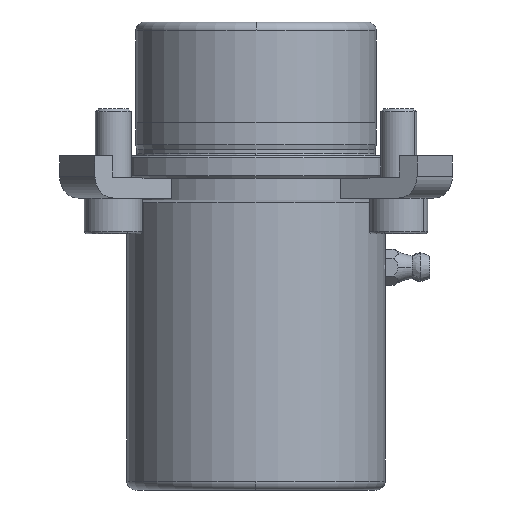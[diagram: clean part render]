
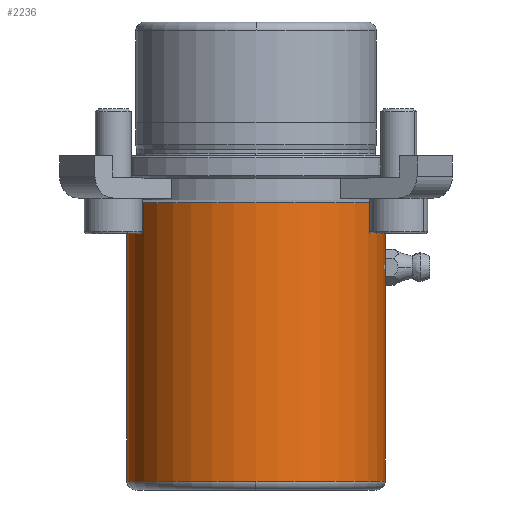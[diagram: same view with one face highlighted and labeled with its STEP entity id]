
A CAD part, front view. The second image highlights one B-rep face of the part: STEP entity #2236.
In plain terms, the highlighted cylindrical face has radius 29 mm (diameter 58 mm), a partial arc.
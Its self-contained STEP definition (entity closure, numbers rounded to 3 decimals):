
#604=CARTESIAN_POINT('',(0.,-29.,-73.0));
#605=VERTEX_POINT('',#604);
#613=CARTESIAN_POINT('',(-29.0,0.,-73.0));
#614=VERTEX_POINT('',#613);
#615=CARTESIAN_POINT('',(0.0,0.,-73.0));
#616=DIRECTION('',(0.0,0.0,-1.0));
#617=DIRECTION('',(1.0,0.0,0.0));
#618=AXIS2_PLACEMENT_3D('',#615,#616,#617);
#619=CIRCLE('',#618,29.0);
#620=EDGE_CURVE('',#605,#614,#619,.T.);
#637=CARTESIAN_POINT('',(29.0,0.,-73.0));
#638=VERTEX_POINT('',#637);
#639=CARTESIAN_POINT('',(29.0,0.,-27.5));
#640=VERTEX_POINT('',#639);
#641=CARTESIAN_POINT('',(29.0,0.,-73.0));
#642=DIRECTION('',(0.0,0.0,1.0));
#643=VECTOR('',#642,45.5);
#644=LINE('',#641,#643);
#645=EDGE_CURVE('',#638,#640,#644,.T.);
#655=CARTESIAN_POINT('',(-29.0,0.,-10.5));
#656=VERTEX_POINT('',#655);
#657=CARTESIAN_POINT('',(-29.0,0.,-73.0));
#658=DIRECTION('',(0.0,0.0,1.0));
#659=VECTOR('',#658,62.5);
#660=LINE('',#657,#659);
#661=EDGE_CURVE('',#614,#656,#660,.T.);
#663=CARTESIAN_POINT('',(29.0,0.,-10.5));
#664=VERTEX_POINT('',#663);
#672=CARTESIAN_POINT('',(29.0,0.,-22.5));
#673=VERTEX_POINT('',#672);
#674=CARTESIAN_POINT('',(29.0,0.,-22.5));
#675=DIRECTION('',(0.0,0.0,1.0));
#676=VECTOR('',#675,12.0);
#677=LINE('',#674,#676);
#678=EDGE_CURVE('',#673,#664,#677,.T.);
#1577=CARTESIAN_POINT('',(28.892,-2.5,-25.0));
#1578=VERTEX_POINT('',#1577);
#1579=CARTESIAN_POINT('',(28.892,-2.5,-25.0));
#1580=CARTESIAN_POINT('',(28.892,-2.5,-24.843));
#1581=CARTESIAN_POINT('',(28.893,-2.485,-24.681));
#1582=CARTESIAN_POINT('',(28.899,-2.422,-24.358));
#1583=CARTESIAN_POINT('',(28.903,-2.373,-24.197));
#1584=CARTESIAN_POINT('',(28.913,-2.246,-23.889));
#1585=CARTESIAN_POINT('',(28.919,-2.166,-23.741));
#1586=CARTESIAN_POINT('',(28.932,-1.983,-23.469));
#1587=CARTESIAN_POINT('',(28.939,-1.879,-23.343));
#1588=CARTESIAN_POINT('',(28.953,-1.657,-23.121));
#1589=CARTESIAN_POINT('',(28.96,-1.531,-23.017));
#1590=CARTESIAN_POINT('',(28.973,-1.259,-22.834));
#1591=CARTESIAN_POINT('',(28.979,-1.111,-22.754));
#1592=CARTESIAN_POINT('',(28.989,-0.803,-22.627));
#1593=CARTESIAN_POINT('',(28.993,-0.642,-22.578));
#1594=CARTESIAN_POINT('',(28.999,-0.319,-22.515));
#1595=CARTESIAN_POINT('',(29.0,-0.157,-22.5));
#1596=CARTESIAN_POINT('',(29.0,0.,-22.5));
#1597=B_SPLINE_CURVE_WITH_KNOTS('',3,(#1579,#1580,#1581,#1582,#1583,#1584,#1585,#1586,#1587,#1588,#1589,#1590,#1591,#1592,#1593,#1594,#1595,#1596),.UNSPECIFIED.,.F.,.U.,(4,2,2,2,2,2,2,2,4),(0.0,0.471,0.942,1.413,1.884,2.356,2.827,3.298,3.769),.UNSPECIFIED.);
#1598=EDGE_CURVE('',#1578,#673,#1597,.T.);
#1600=CARTESIAN_POINT('',(29.0,0.,-27.5));
#1601=CARTESIAN_POINT('',(29.0,-0.157,-27.5));
#1602=CARTESIAN_POINT('',(28.999,-0.319,-27.485));
#1603=CARTESIAN_POINT('',(28.993,-0.642,-27.422));
#1604=CARTESIAN_POINT('',(28.989,-0.803,-27.373));
#1605=CARTESIAN_POINT('',(28.979,-1.111,-27.246));
#1606=CARTESIAN_POINT('',(28.973,-1.259,-27.166));
#1607=CARTESIAN_POINT('',(28.96,-1.531,-26.983));
#1608=CARTESIAN_POINT('',(28.953,-1.657,-26.879));
#1609=CARTESIAN_POINT('',(28.939,-1.879,-26.657));
#1610=CARTESIAN_POINT('',(28.932,-1.983,-26.531));
#1611=CARTESIAN_POINT('',(28.919,-2.166,-26.259));
#1612=CARTESIAN_POINT('',(28.913,-2.246,-26.111));
#1613=CARTESIAN_POINT('',(28.903,-2.373,-25.803));
#1614=CARTESIAN_POINT('',(28.899,-2.422,-25.642));
#1615=CARTESIAN_POINT('',(28.893,-2.485,-25.319));
#1616=CARTESIAN_POINT('',(28.892,-2.5,-25.157));
#1617=CARTESIAN_POINT('',(28.892,-2.5,-25.0));
#1618=B_SPLINE_CURVE_WITH_KNOTS('',3,(#1600,#1601,#1602,#1603,#1604,#1605,#1606,#1607,#1608,#1609,#1610,#1611,#1612,#1613,#1614,#1615,#1616,#1617),.UNSPECIFIED.,.F.,.U.,(4,2,2,2,2,2,2,2,4),(11.307,11.778,12.249,12.72,13.191,13.662,14.133,14.604,15.075),.UNSPECIFIED.);
#1619=EDGE_CURVE('',#640,#1578,#1618,.T.);
#2205=CARTESIAN_POINT('',(0.0,0.,-10.5));
#2206=DIRECTION('',(0.0,0.0,-1.0));
#2207=DIRECTION('',(1.0,0.0,0.0));
#2208=AXIS2_PLACEMENT_3D('',#2205,#2206,#2207);
#2209=CIRCLE('',#2208,29.0);
#2210=EDGE_CURVE('',#664,#656,#2209,.T.);
#2215=CARTESIAN_POINT('',(0.0,0.,-41.75));
#2216=DIRECTION('',(0.0,0.,-1.0));
#2217=DIRECTION('',(1.0,0.0,0.0));
#2218=AXIS2_PLACEMENT_3D('',#2215,#2216,#2217);
#2219=CYLINDRICAL_SURFACE('',#2218,29.0);
#2220=ORIENTED_EDGE('',*,*,#645,.T.);
#2221=ORIENTED_EDGE('',*,*,#1619,.T.);
#2222=ORIENTED_EDGE('',*,*,#1598,.T.);
#2223=ORIENTED_EDGE('',*,*,#678,.T.);
#2224=ORIENTED_EDGE('',*,*,#2210,.T.);
#2225=ORIENTED_EDGE('',*,*,#661,.F.);
#2226=ORIENTED_EDGE('',*,*,#620,.F.);
#2227=CARTESIAN_POINT('',(0.0,0.,-73.0));
#2228=DIRECTION('',(0.0,0.0,-1.0));
#2229=DIRECTION('',(1.0,0.0,0.0));
#2230=AXIS2_PLACEMENT_3D('',#2227,#2228,#2229);
#2231=CIRCLE('',#2230,29.0);
#2232=EDGE_CURVE('',#638,#605,#2231,.T.);
#2233=ORIENTED_EDGE('',*,*,#2232,.F.);
#2234=EDGE_LOOP('',(#2220,#2221,#2222,#2223,#2224,#2225,#2226,#2233));
#2235=FACE_OUTER_BOUND('',#2234,.T.);
#2236=ADVANCED_FACE('',(#2235),#2219,.T.);
